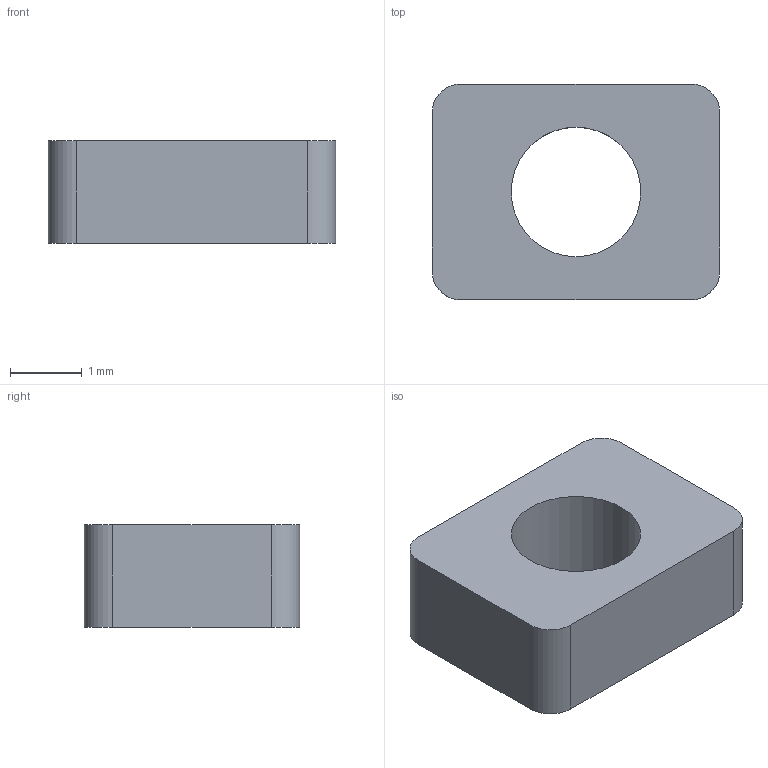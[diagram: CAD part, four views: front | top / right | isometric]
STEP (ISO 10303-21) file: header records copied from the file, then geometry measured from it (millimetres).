
FILE_DESCRIPTION(('Open CASCADE Model'),'2;1');
FILE_NAME('Open CASCADE Shape Model','2026-09-06T11:29:01',('Author'),( 'Open CASCADE'),'Open CASCADE STEP processor 7.7','Open CASCADE 7.7' ,'Unknown');
FILE_SCHEMA(('AUTOMOTIVE_DESIGN { 1 0 10303 214 1 1 1 1 }'));
Length unit declared in the file: millimetre
Products named in the file (1): Open CASCADE STEP translator 7.7 10
Bounding box: 4 x 3 x 1.43 mm (x, y, z)
Volume: 13.3 mm3; surface area: 45.8 mm2
Topology: 1 solids, 1 shells, 11 faces, 27 edges, 18 vertices
Faces by surface type: plane 6, cylinder 5
Full cylindrical faces by diameter (mm): 1.8 x1
Entity records: 714 total; most frequent: CARTESIAN_POINT 147, DIRECTION 109, LINE 61, VECTOR 61, ORIENTED_EDGE 54, PCURVE 54, DEFINITIONAL_REPRESENTATION 54, EDGE_CURVE 27
